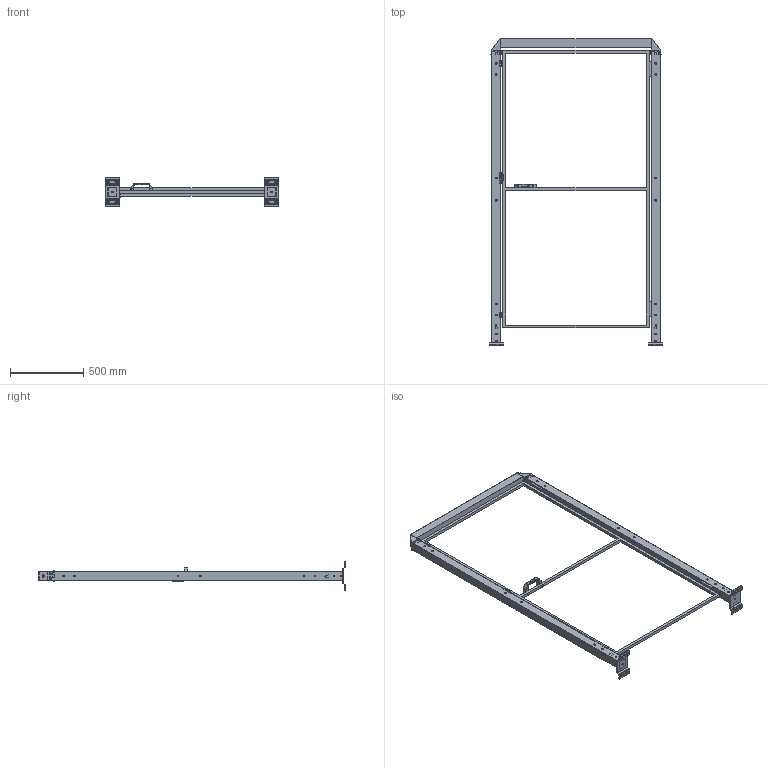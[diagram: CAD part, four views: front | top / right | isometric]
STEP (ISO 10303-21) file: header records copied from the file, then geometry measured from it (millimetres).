
FILE_DESCRIPTION(('STEP AP242'),'1');
FILE_NAME('vfda_bscndr2_10002020.stp','2025-01-23T12:21:45',('TraceParts'),('TraceParts S.A.'),'Spatial InterOp 3D',' ',' ');
FILE_SCHEMA(('AP242_MANAGED_MODEL_BASED_3D_ENGINEERING_MIM_LF {1 0 10303 442 1 1 4}'));
Length unit declared in the file: millimetre
Products named in the file (1): vfda_bscndr2_10002020_1
Bounding box: 1190 x 2101 x 192 mm (x, y, z)
Volume: 4878932.7 mm3; surface area: 3140436.2 mm2
Topology: 12 solids, 12 shells, 1874 faces, 5016 edges, 3212 vertices
Faces by surface type: plane 906, cylinder 628, bspline 236, cone 60, torus 40, sphere 4
Entity records: 75648 total; most frequent: CARTESIAN_POINT 13827, ORIENTED_EDGE 10024, DIRECTION 9202, EDGE_CURVE 5012, VERTEX_POINT 3212, LINE 3072, VECTOR 3072, AXIS2_PLACEMENT_3D 3065
